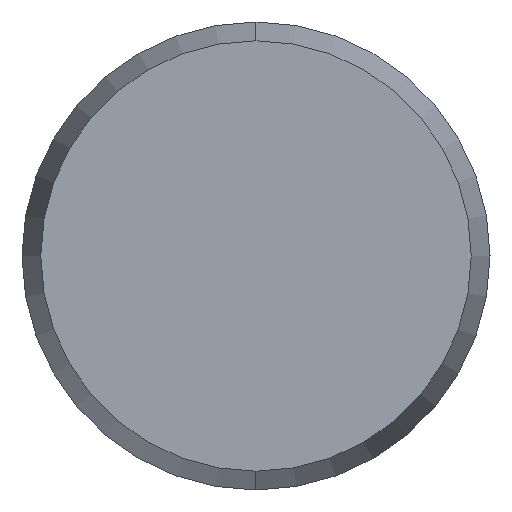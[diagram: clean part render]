
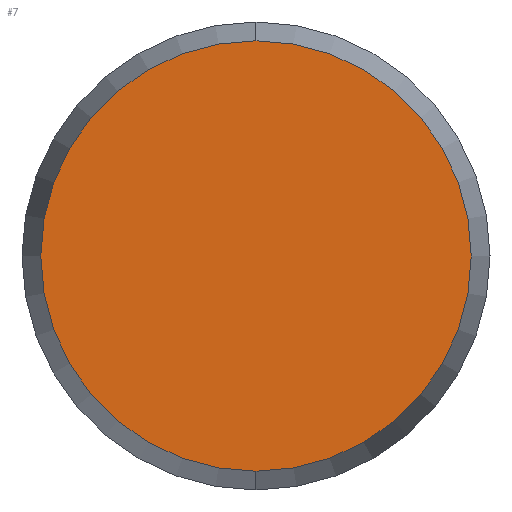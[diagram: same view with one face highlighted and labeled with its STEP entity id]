
A CAD part, left-side view. The second image highlights one B-rep face of the part: STEP entity #7.
In plain terms, the highlighted planar face has unit normal (-1, 0, 0).
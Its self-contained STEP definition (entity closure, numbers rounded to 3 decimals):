
#2 = EDGE_CURVE ( 'NONE', #15, #17, #139, .T. ) ;
#4 = EDGE_LOOP ( 'NONE', ( #5, #10 ) ) ;
#5 = ORIENTED_EDGE ( 'NONE', *, *, #18, .F. ) ;
#7 = ADVANCED_FACE ( 'NONE', ( #134 ), #133, .F. ) ;
#10 = ORIENTED_EDGE ( 'NONE', *, *, #2, .F. ) ;
#15 = VERTEX_POINT ( 'NONE', #54 ) ;
#17 = VERTEX_POINT ( 'NONE', #53 ) ;
#18 = EDGE_CURVE ( 'NONE', #17, #15, #51, .T. ) ;
#47 = DIRECTION ( 'NONE',  ( 0., 0., -1. ) ) ;
#48 = DIRECTION ( 'NONE',  ( 1., 0., 0. ) ) ;
#49 = CARTESIAN_POINT ( 'NONE',  ( -35., 0., 0. ) ) ;
#50 = AXIS2_PLACEMENT_3D ( 'NONE', #49, #48, #47 ) ;
#51 = CIRCLE ( 'NONE', #50, 3.678 ) ;
#53 = CARTESIAN_POINT ( 'NONE',  ( -35., 0., 3.678 ) ) ;
#54 = CARTESIAN_POINT ( 'NONE',  ( -35., 0., -3.678 ) ) ;
#128 = DIRECTION ( 'NONE',  ( 0., 0., -1. ) ) ;
#129 = DIRECTION ( 'NONE',  ( 1., 0., 0. ) ) ;
#130 = CARTESIAN_POINT ( 'NONE',  ( -35., 0., 0. ) ) ;
#132 = AXIS2_PLACEMENT_3D ( 'NONE', #130, #129, #128 ) ;
#133 = PLANE ( 'NONE',  #132 ) ;
#134 = FACE_OUTER_BOUND ( 'NONE', #4, .T. ) ;
#135 = DIRECTION ( 'NONE',  ( 0., 0., -1. ) ) ;
#136 = DIRECTION ( 'NONE',  ( 1., 0., 0. ) ) ;
#137 = CARTESIAN_POINT ( 'NONE',  ( -35., 0., 0. ) ) ;
#138 = AXIS2_PLACEMENT_3D ( 'NONE', #137, #136, #135 ) ;
#139 = CIRCLE ( 'NONE', #138, 3.678 ) ;
